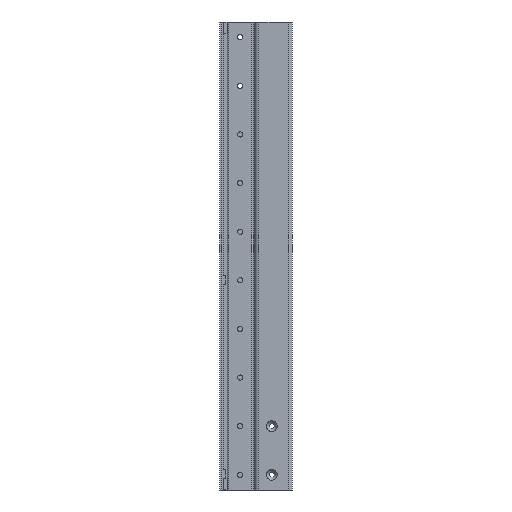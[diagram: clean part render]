
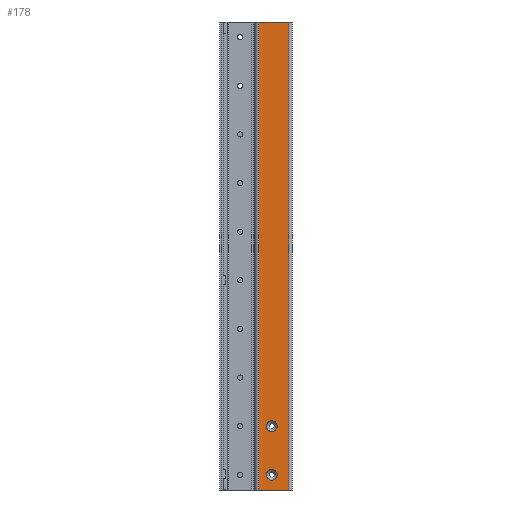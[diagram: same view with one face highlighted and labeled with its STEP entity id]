
A CAD part, left-side view. The second image highlights one B-rep face of the part: STEP entity #178.
In plain terms, the highlighted planar face has unit normal (-1, 0, 0).
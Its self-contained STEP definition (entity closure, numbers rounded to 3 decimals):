
#178=ADVANCED_FACE('',(#560,#561,#562),#563,.T.);
#560=FACE_BOUND('',#1174,.T.);
#561=FACE_BOUND('',#1175,.T.);
#562=FACE_OUTER_BOUND('',#1176,.T.);
#563=PLANE('',#1177);
#1174=EDGE_LOOP('',(#2337,#2338));
#1175=EDGE_LOOP('',(#2339,#2340));
#1176=EDGE_LOOP('',(#2341,#2342,#2343,#2344));
#1177=AXIS2_PLACEMENT_3D('',#2345,#2346,#2347);
#2337=ORIENTED_EDGE('',*,*,#3922,.T.);
#2338=ORIENTED_EDGE('',*,*,#4142,.T.);
#2339=ORIENTED_EDGE('',*,*,#3918,.T.);
#2340=ORIENTED_EDGE('',*,*,#4144,.T.);
#2341=ORIENTED_EDGE('',*,*,#4170,.T.);
#2342=ORIENTED_EDGE('',*,*,#4171,.F.);
#2343=ORIENTED_EDGE('',*,*,#4172,.T.);
#2344=ORIENTED_EDGE('',*,*,#4168,.T.);
#2345=CARTESIAN_POINT('',(-26.,-3.,0.0));
#2346=DIRECTION('',(-1.0,0.0,0.0));
#2347=DIRECTION('',(0.0,-1.0,0.0));
#3918=EDGE_CURVE('',#4666,#4663,#4667,.T.);
#3922=EDGE_CURVE('',#4674,#4671,#4675,.T.);
#4142=EDGE_CURVE('',#4671,#4674,#5040,.T.);
#4144=EDGE_CURVE('',#4663,#4666,#5042,.T.);
#4168=EDGE_CURVE('',#5083,#5081,#5084,.T.);
#4170=EDGE_CURVE('',#5081,#5086,#5087,.T.);
#4171=EDGE_CURVE('',#5088,#5086,#5089,.T.);
#4172=EDGE_CURVE('',#5088,#5083,#5090,.T.);
#4663=VERTEX_POINT('',#5893);
#4666=VERTEX_POINT('',#5897);
#4667=CIRCLE('',#5898,9.0);
#4671=VERTEX_POINT('',#5903);
#4674=VERTEX_POINT('',#5907);
#4675=CIRCLE('',#5908,9.0);
#5040=CIRCLE('',#6450,9.0);
#5042=CIRCLE('',#6452,9.0);
#5081=VERTEX_POINT('',#6509);
#5083=VERTEX_POINT('',#6511);
#5084=LINE('',#6512,#6513);
#5086=VERTEX_POINT('',#6515);
#5087=LINE('',#6516,#6517);
#5088=VERTEX_POINT('',#6518);
#5089=LINE('',#6519,#6520);
#5090=LINE('',#6521,#6522);
#5893=CARTESIAN_POINT('',(-26.,0.,34.0));
#5897=CARTESIAN_POINT('',(-26.,0.,16.0));
#5898=AXIS2_PLACEMENT_3D('',#7614,#7615,#7616);
#5903=CARTESIAN_POINT('',(-26.,0.,114.0));
#5907=CARTESIAN_POINT('',(-26.,0.,96.0));
#5908=AXIS2_PLACEMENT_3D('',#7622,#7623,#7624);
#6450=AXIS2_PLACEMENT_3D('',#7928,#7929,#7930);
#6452=AXIS2_PLACEMENT_3D('',#7934,#7935,#7936);
#6509=CARTESIAN_POINT('',(-26.,-27.5,770.0));
#6511=CARTESIAN_POINT('',(-26.,-27.5,0.0));
#6512=CARTESIAN_POINT('',(-26.,-27.5,0.0));
#6513=VECTOR('',#7970,1.0);
#6515=CARTESIAN_POINT('',(-26.,21.5,770.0));
#6516=CARTESIAN_POINT('',(-26.,21.5,770.0));
#6517=VECTOR('',#7974,1.0);
#6518=CARTESIAN_POINT('',(-26.,21.5,0.0));
#6519=CARTESIAN_POINT('',(-26.,21.5,0.0));
#6520=VECTOR('',#7975,1.0);
#6521=CARTESIAN_POINT('',(-26.,21.5,0.0));
#6522=VECTOR('',#7976,1.0);
#7614=CARTESIAN_POINT('',(-26.,0.0,25.0));
#7615=DIRECTION('',(1.0,0.0,-0.0));
#7616=DIRECTION('',(0.0,0.0,1.0));
#7622=CARTESIAN_POINT('',(-26.,0.0,105.0));
#7623=DIRECTION('',(1.0,0.0,-0.0));
#7624=DIRECTION('',(0.0,0.0,1.0));
#7928=CARTESIAN_POINT('',(-26.,0.0,105.0));
#7929=DIRECTION('',(1.0,0.0,-0.0));
#7930=DIRECTION('',(0.0,0.0,1.0));
#7934=CARTESIAN_POINT('',(-26.,0.0,25.0));
#7935=DIRECTION('',(1.0,0.0,-0.0));
#7936=DIRECTION('',(0.0,0.0,1.0));
#7970=DIRECTION('',(0.0,0.0,1.0));
#7974=DIRECTION('',(0.0,1.0,0.0));
#7975=DIRECTION('',(0.0,0.0,1.0));
#7976=DIRECTION('',(0.0,-1.0,0.0));
